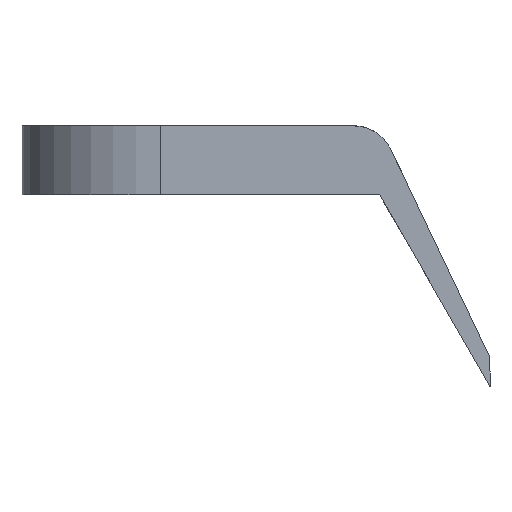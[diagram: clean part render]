
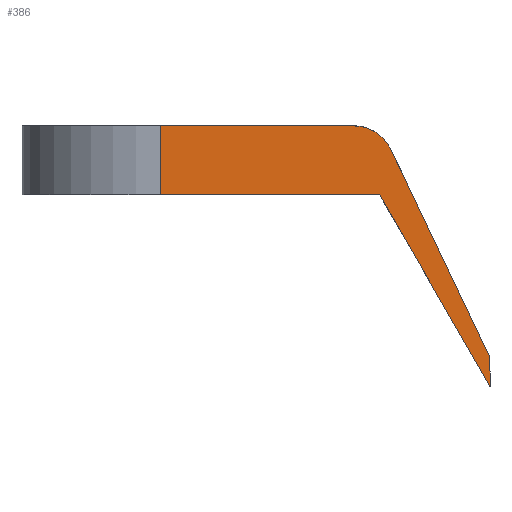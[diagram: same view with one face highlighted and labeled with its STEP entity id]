
A CAD part, front view. The second image highlights one B-rep face of the part: STEP entity #386.
In plain terms, the highlighted planar face has unit normal (0, -1, 0).
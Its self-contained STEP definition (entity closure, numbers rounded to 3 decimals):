
#8 = VERTEX_POINT ( 'NONE', #408 ) ;
#15 = FACE_OUTER_BOUND ( 'NONE', #416, .T. ) ;
#17 = CARTESIAN_POINT ( 'NONE',  ( 50., -42., 5. ) ) ;
#107 = LINE ( 'NONE', #660, #1022 ) ;
#224 = CARTESIAN_POINT ( 'NONE',  ( -60., -42., 0. ) ) ;
#234 = AXIS2_PLACEMENT_3D ( 'NONE', #982, #292, #1762 ) ;
#292 = DIRECTION ( 'NONE',  ( 0., 1., 0. ) ) ;
#309 = ORIENTED_EDGE ( 'NONE', *, *, #1756, .T. ) ;
#312 = EDGE_CURVE ( 'NONE', #363, #1557, #1577, .T. ) ;
#323 = CIRCLE ( 'NONE', #1508, 3. ) ;
#333 = VERTEX_POINT ( 'NONE', #781 ) ;
#349 = CARTESIAN_POINT ( 'NONE',  ( 50., -42., 0. ) ) ;
#363 = VERTEX_POINT ( 'NONE', #813 ) ;
#386 = ADVANCED_FACE ( 'NONE', ( #15 ), #423, .F. ) ;
#408 = CARTESIAN_POINT ( 'NONE',  ( 34.1, -42., 5. ) ) ;
#416 = EDGE_LOOP ( 'NONE', ( #309, #1294, #538, #1451, #1574, #532, #647 ) ) ;
#423 = PLANE ( 'NONE',  #234 ) ;
#433 = VECTOR ( 'NONE', #1017, 1000. ) ;
#466 = CARTESIAN_POINT ( 'NONE',  ( 26.1, -42., 16.804 ) ) ;
#479 = CARTESIAN_POINT ( 'NONE',  ( 50., -42., 5. ) ) ;
#480 = DIRECTION ( 'NONE',  ( 1., 0., 0. ) ) ;
#519 = DIRECTION ( 'NONE',  ( 0.43, 0., -0.903 ) ) ;
#532 = ORIENTED_EDGE ( 'NONE', *, *, #1488, .T. ) ;
#536 = EDGE_CURVE ( 'NONE', #333, #1565, #1173, .T. ) ;
#538 = ORIENTED_EDGE ( 'NONE', *, *, #536, .T. ) ;
#559 = EDGE_CURVE ( 'NONE', #8, #870, #631, .T. ) ;
#627 = VERTEX_POINT ( 'NONE', #1748 ) ;
#631 = LINE ( 'NONE', #1718, #1674 ) ;
#636 = CARTESIAN_POINT ( 'NONE',  ( 26.1, -42., 16.804 ) ) ;
#642 = VECTOR ( 'NONE', #1598, 1000. ) ;
#647 = ORIENTED_EDGE ( 'NONE', *, *, #312, .T. ) ;
#660 = CARTESIAN_POINT ( 'NONE',  ( 34.1, -42., 0. ) ) ;
#781 = CARTESIAN_POINT ( 'NONE',  ( 35.994, -42., 0. ) ) ;
#813 = CARTESIAN_POINT ( 'NONE',  ( 26.1, -42., 18.856 ) ) ;
#870 = VERTEX_POINT ( 'NONE', #17 ) ;
#930 = VECTOR ( 'NONE', #1041, 1000. ) ;
#982 = CARTESIAN_POINT ( 'NONE',  ( -60., -42., 5. ) ) ;
#992 = CARTESIAN_POINT ( 'NONE',  ( 35.994, -42., 3. ) ) ;
#1017 = DIRECTION ( 'NONE',  ( -0.5, 0., 0.866 ) ) ;
#1022 = VECTOR ( 'NONE', #519, 1000. ) ;
#1041 = DIRECTION ( 'NONE',  ( 0., 0., 1. ) ) ;
#1173 = LINE ( 'NONE', #224, #1614 ) ;
#1230 = EDGE_CURVE ( 'NONE', #1565, #870, #1736, .T. ) ;
#1294 = ORIENTED_EDGE ( 'NONE', *, *, #1529, .T. ) ;
#1304 = CARTESIAN_POINT ( 'NONE',  ( 26.1, -42., 18.856 ) ) ;
#1323 = DIRECTION ( 'NONE',  ( 1., 0., 0. ) ) ;
#1410 = DIRECTION ( 'NONE',  ( 0., 0., 1. ) ) ;
#1451 = ORIENTED_EDGE ( 'NONE', *, *, #1230, .T. ) ;
#1488 = EDGE_CURVE ( 'NONE', #8, #363, #1688, .T. ) ;
#1508 = AXIS2_PLACEMENT_3D ( 'NONE', #992, #1538, #1410 ) ;
#1529 = EDGE_CURVE ( 'NONE', #627, #333, #323, .T. ) ;
#1538 = DIRECTION ( 'NONE',  ( 0., -1., 0. ) ) ;
#1557 = VERTEX_POINT ( 'NONE', #466 ) ;
#1565 = VERTEX_POINT ( 'NONE', #349 ) ;
#1574 = ORIENTED_EDGE ( 'NONE', *, *, #559, .F. ) ;
#1577 = LINE ( 'NONE', #636, #642 ) ;
#1598 = DIRECTION ( 'NONE',  ( 0., 0., -1. ) ) ;
#1614 = VECTOR ( 'NONE', #1323, 1000. ) ;
#1674 = VECTOR ( 'NONE', #480, 1000. ) ;
#1688 = LINE ( 'NONE', #1304, #433 ) ;
#1718 = CARTESIAN_POINT ( 'NONE',  ( -60., -42., 5. ) ) ;
#1736 = LINE ( 'NONE', #479, #930 ) ;
#1748 = CARTESIAN_POINT ( 'NONE',  ( 33.286, -42., 1.71 ) ) ;
#1756 = EDGE_CURVE ( 'NONE', #1557, #627, #107, .T. ) ;
#1762 = DIRECTION ( 'NONE',  ( 0., 0., 1. ) ) ;
